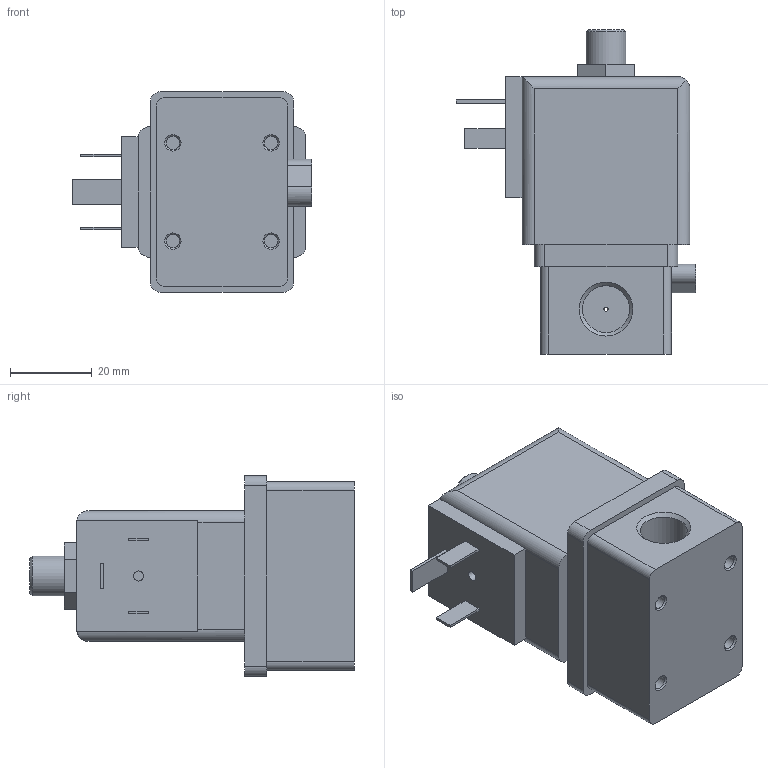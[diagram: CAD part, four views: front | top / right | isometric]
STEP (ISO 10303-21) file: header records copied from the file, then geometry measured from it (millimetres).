
FILE_DESCRIPTION(/* description */ ('STEP AP214'),/* implementation_level */ '2;1');
FILE_NAME(/* name */ '6014-126212-3_2-way_Solenoid_Valve_direct-acting',/* time_stamp */ '2024-08-13T15:36:55+02:00',/* author */ ('License CC BY-ND 4.0'),/* organization */ ('CADENAS'),/* preprocessor_version */ 'ST-DEVELOPER v19.3',/* originating_system */ 'PARTsolutions',/* authorisation */ ' ');
FILE_SCHEMA (('AUTOMOTIVE_DESIGN {1 0 10303 214 3 1 1}'));
Length unit declared in the file: millimetre
Products named in the file (1): 6014-126212-3/2-way Solenoid Valve direct-acting
Bounding box: 58.45 x 79.3 x 49 mm (x, y, z)
Volume: 94922 mm3; surface area: 16600.2 mm2
Topology: 1 solids, 1 shells, 91 faces, 213 edges, 136 vertices
Faces by surface type: plane 58, cylinder 26, cone 7
Full cylindrical faces by diameter (mm): 1 x1, 2.46 x1, 3.242 x4, 9.728 x1, 11.445 x2
Entity records: 3160 total; most frequent: DIRECTION 439, CARTESIAN_POINT 423, ORIENTED_EDGE 392, EDGE_CURVE 196, AXIS2_PLACEMENT_3D 151, LINE 137, VECTOR 137, VERTEX_POINT 135
